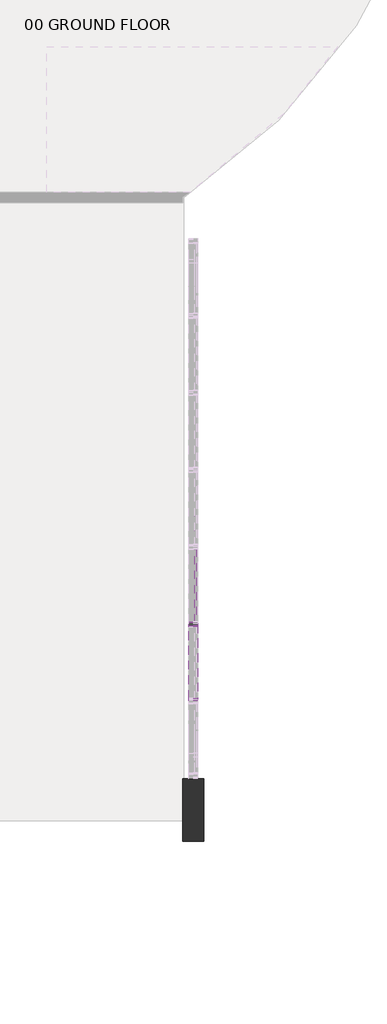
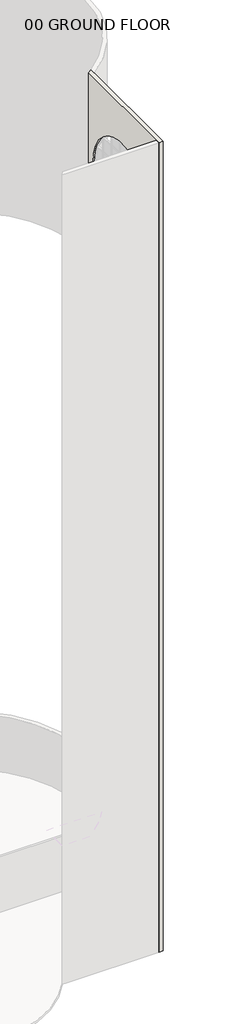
# One storey, part 17 of 33: 62 plates, 56 members, 1 wall.
"""IFC4 building model written with IfcOpenShell, lengths in millimetres."""

from ifc_helpers import new_model, si_unit, frame, origin, place, context, project, spatial, polyline, circle_curve, transform, mapped, element, save
from ifc_brep_helpers import plane_surface, revolved_surface, advanced_brep
from components import member_14f97ceb, member_d1490fb0, member_2b49869a, member_f6015b47, member_a643bc77, system_panel_glazed_f009bf0e, system_panel_glazed_0919b3b7, system_panel_glazed_74ab0a48

model = new_model("IFC4")

# Units and contexts
model_context = context("Model", 3, world=origin())
ifc_project = project(units=[si_unit("LENGTHUNIT", "METRE", prefix="MILLI")], contexts=[model_context])

# Site, building, storey
site = spatial("IfcSite", under=ifc_project)
building = spatial("IfcBuilding", under=site)
storey = spatial("IfcBuildingStorey", under=building, Name="00 GROUND FLOOR", Elevation=0.0)

# Members
placement = place(None, origin())
member_shape = member_14f97ceb(model_context)
element("IfcMember", 1, ObjectType="Rectangular Mullion : 2.5\" x 5\" rectangular", at=placement, inside=storey, context=model_context, shape_type="MappedRepresentation", body=[
    mapped(member_shape, transform((44184.4050515, 3061.1535716, 0.0), x_axis=(0.0, 0.0, -1.0), y_axis=(1.0, 0.0, 0.0), z_axis=(0.0, -1.0, 0.0))),
])
member_2_shape = member_d1490fb0(model_context)
element("IfcMember", 2, ObjectType="Rectangular Mullion : 2.5\" x 5\" rectangular", at=placement, inside=storey, context=model_context, shape_type="MappedRepresentation", body=[
    mapped(member_2_shape, transform((44184.4050515, 2997.6535716, 60960.0), x_axis=(0.0, 0.0, 1.0), y_axis=(1.0, 0.0, 0.0), z_axis=(0.0, 1.0, 0.0))),
])
element("IfcMember", 3, ObjectType="Rectangular Mullion : 2.5\" x 5\" rectangular", at=placement, inside=storey, context=model_context, shape_type="MappedRepresentation", body=[
    mapped(member_2_shape, transform((44184.4050515, 2997.6535716, 62179.2), x_axis=(0.0, 0.0, 1.0), y_axis=(1.0, 0.0, 0.0), z_axis=(0.0, 1.0, 0.0))),
])
member_3_shape = member_2b49869a(model_context)
element("IfcMember", 4, ObjectType="Rectangular Mullion : 2.5\" x 5\" rectangular", at=placement, inside=storey, context=model_context, shape_type="MappedRepresentation", body=[
    mapped(member_3_shape, transform((44184.4050515, 3029.4035716, 0.0), x_axis=(0.0, 1.0, 0.0), y_axis=(1.0, 0.0, 0.0), z_axis=(0.0, 0.0, -1.0))),
])
element("IfcMember", 5, ObjectType="Rectangular Mullion : 2.5\" x 5\" rectangular", at=placement, inside=storey, context=model_context, shape_type="MappedRepresentation", body=[
    mapped(member_3_shape, transform((44184.4050515, 3029.4035716, 1219.2), x_axis=(0.0, 1.0, 0.0), y_axis=(1.0, 0.0, 0.0), z_axis=(0.0, 0.0, -1.0))),
])
element("IfcMember", 6, ObjectType="Rectangular Mullion : 2.5\" x 5\" rectangular", at=placement, inside=storey, context=model_context, shape_type="MappedRepresentation", body=[
    mapped(member_3_shape, transform((44184.4050515, 3029.4035716, 2438.4), x_axis=(0.0, 1.0, 0.0), y_axis=(1.0, 0.0, 0.0), z_axis=(0.0, 0.0, -1.0))),
])
element("IfcMember", 7, ObjectType="Rectangular Mullion : 2.5\" x 5\" rectangular", at=placement, inside=storey, context=model_context, shape_type="MappedRepresentation", body=[
    mapped(member_3_shape, transform((44184.4050515, 3029.4035716, 3657.6), x_axis=(0.0, 1.0, 0.0), y_axis=(1.0, 0.0, 0.0), z_axis=(0.0, 0.0, -1.0))),
])
element("IfcMember", 8, ObjectType="Rectangular Mullion : 2.5\" x 5\" rectangular", at=placement, inside=storey, context=model_context, shape_type="MappedRepresentation", body=[
    mapped(member_3_shape, transform((44184.4050515, 3029.4035716, 4876.8), x_axis=(0.0, 1.0, 0.0), y_axis=(1.0, 0.0, 0.0), z_axis=(0.0, 0.0, -1.0))),
])
element("IfcMember", 9, ObjectType="Rectangular Mullion : 2.5\" x 5\" rectangular", at=placement, inside=storey, context=model_context, shape_type="MappedRepresentation", body=[
    mapped(member_3_shape, transform((44184.4050515, 3029.4035716, 6096.0), x_axis=(0.0, 1.0, 0.0), y_axis=(1.0, 0.0, 0.0), z_axis=(0.0, 0.0, -1.0))),
])
element("IfcMember", 10, ObjectType="Rectangular Mullion : 2.5\" x 5\" rectangular", at=placement, inside=storey, context=model_context, shape_type="MappedRepresentation", body=[
    mapped(member_3_shape, transform((44184.4050515, 3029.4035716, 7315.2), x_axis=(0.0, 1.0, 0.0), y_axis=(1.0, 0.0, 0.0), z_axis=(0.0, 0.0, -1.0))),
])
element("IfcMember", 11, ObjectType="Rectangular Mullion : 2.5\" x 5\" rectangular", at=placement, inside=storey, context=model_context, shape_type="MappedRepresentation", body=[
    mapped(member_3_shape, transform((44184.4050515, 3029.4035716, 8534.4), x_axis=(0.0, 1.0, 0.0), y_axis=(1.0, 0.0, 0.0), z_axis=(0.0, 0.0, -1.0))),
])
element("IfcMember", 12, ObjectType="Rectangular Mullion : 2.5\" x 5\" rectangular", at=placement, inside=storey, context=model_context, shape_type="MappedRepresentation", body=[
    mapped(member_3_shape, transform((44184.4050515, 3029.4035716, 9753.6), x_axis=(0.0, 1.0, 0.0), y_axis=(1.0, 0.0, 0.0), z_axis=(0.0, 0.0, -1.0))),
])
element("IfcMember", 13, ObjectType="Rectangular Mullion : 2.5\" x 5\" rectangular", at=placement, inside=storey, context=model_context, shape_type="MappedRepresentation", body=[
    mapped(member_3_shape, transform((44184.4050515, 3029.4035716, 10972.8), x_axis=(0.0, 1.0, 0.0), y_axis=(1.0, 0.0, 0.0), z_axis=(0.0, 0.0, -1.0))),
])
element("IfcMember", 14, ObjectType="Rectangular Mullion : 2.5\" x 5\" rectangular", at=placement, inside=storey, context=model_context, shape_type="MappedRepresentation", body=[
    mapped(member_3_shape, transform((44184.4050515, 3029.4035716, 12192.0), x_axis=(0.0, 1.0, 0.0), y_axis=(1.0, 0.0, 0.0), z_axis=(0.0, 0.0, -1.0))),
])
element("IfcMember", 15, ObjectType="Rectangular Mullion : 2.5\" x 5\" rectangular", at=placement, inside=storey, context=model_context, shape_type="MappedRepresentation", body=[
    mapped(member_3_shape, transform((44184.4050515, 3029.4035716, 13411.2), x_axis=(0.0, 1.0, 0.0), y_axis=(1.0, 0.0, 0.0), z_axis=(0.0, 0.0, -1.0))),
])
element("IfcMember", 16, ObjectType="Rectangular Mullion : 2.5\" x 5\" rectangular", at=placement, inside=storey, context=model_context, shape_type="MappedRepresentation", body=[
    mapped(member_3_shape, transform((44184.4050515, 3029.4035716, 14630.4), x_axis=(0.0, 1.0, 0.0), y_axis=(1.0, 0.0, 0.0), z_axis=(0.0, 0.0, -1.0))),
])
element("IfcMember", 17, ObjectType="Rectangular Mullion : 2.5\" x 5\" rectangular", at=placement, inside=storey, context=model_context, shape_type="MappedRepresentation", body=[
    mapped(member_3_shape, transform((44184.4050515, 3029.4035716, 15849.6), x_axis=(0.0, 1.0, 0.0), y_axis=(1.0, 0.0, 0.0), z_axis=(0.0, 0.0, -1.0))),
])
element("IfcMember", 18, ObjectType="Rectangular Mullion : 2.5\" x 5\" rectangular", at=placement, inside=storey, context=model_context, shape_type="MappedRepresentation", body=[
    mapped(member_3_shape, transform((44184.4050515, 3029.4035716, 17068.8), x_axis=(0.0, 1.0, 0.0), y_axis=(1.0, 0.0, 0.0), z_axis=(0.0, 0.0, -1.0))),
])
element("IfcMember", 19, ObjectType="Rectangular Mullion : 2.5\" x 5\" rectangular", at=placement, inside=storey, context=model_context, shape_type="MappedRepresentation", body=[
    mapped(member_3_shape, transform((44184.4050515, 3029.4035716, 18288.0), x_axis=(0.0, 1.0, 0.0), y_axis=(1.0, 0.0, 0.0), z_axis=(0.0, 0.0, -1.0))),
])
element("IfcMember", 20, ObjectType="Rectangular Mullion : 2.5\" x 5\" rectangular", at=placement, inside=storey, context=model_context, shape_type="MappedRepresentation", body=[
    mapped(member_3_shape, transform((44184.4050515, 3029.4035716, 19507.2), x_axis=(0.0, 1.0, 0.0), y_axis=(1.0, 0.0, 0.0), z_axis=(0.0, 0.0, -1.0))),
])
element("IfcMember", 21, ObjectType="Rectangular Mullion : 2.5\" x 5\" rectangular", at=placement, inside=storey, context=model_context, shape_type="MappedRepresentation", body=[
    mapped(member_3_shape, transform((44184.4050515, 3029.4035716, 20726.4), x_axis=(0.0, 1.0, 0.0), y_axis=(1.0, 0.0, 0.0), z_axis=(0.0, 0.0, -1.0))),
])
element("IfcMember", 22, ObjectType="Rectangular Mullion : 2.5\" x 5\" rectangular", at=placement, inside=storey, context=model_context, shape_type="MappedRepresentation", body=[
    mapped(member_3_shape, transform((44184.4050515, 3029.4035716, 21945.6), x_axis=(0.0, 1.0, 0.0), y_axis=(1.0, 0.0, 0.0), z_axis=(0.0, 0.0, -1.0))),
])
element("IfcMember", 23, ObjectType="Rectangular Mullion : 2.5\" x 5\" rectangular", at=placement, inside=storey, context=model_context, shape_type="MappedRepresentation", body=[
    mapped(member_3_shape, transform((44184.4050515, 3029.4035716, 23164.8), x_axis=(0.0, 1.0, 0.0), y_axis=(1.0, 0.0, 0.0), z_axis=(0.0, 0.0, -1.0))),
])
element("IfcMember", 24, ObjectType="Rectangular Mullion : 2.5\" x 5\" rectangular", at=placement, inside=storey, context=model_context, shape_type="MappedRepresentation", body=[
    mapped(member_3_shape, transform((44184.4050515, 3029.4035716, 24384.0), x_axis=(0.0, 1.0, 0.0), y_axis=(1.0, 0.0, 0.0), z_axis=(0.0, 0.0, -1.0))),
])
element("IfcMember", 25, ObjectType="Rectangular Mullion : 2.5\" x 5\" rectangular", at=placement, inside=storey, context=model_context, shape_type="MappedRepresentation", body=[
    mapped(member_3_shape, transform((44184.4050515, 3029.4035716, 25603.2), x_axis=(0.0, 1.0, 0.0), y_axis=(1.0, 0.0, 0.0), z_axis=(0.0, 0.0, -1.0))),
])
element("IfcMember", 26, ObjectType="Rectangular Mullion : 2.5\" x 5\" rectangular", at=placement, inside=storey, context=model_context, shape_type="MappedRepresentation", body=[
    mapped(member_3_shape, transform((44184.4050515, 3029.4035716, 26822.4), x_axis=(0.0, 1.0, 0.0), y_axis=(1.0, 0.0, 0.0), z_axis=(0.0, 0.0, -1.0))),
])
element("IfcMember", 27, ObjectType="Rectangular Mullion : 2.5\" x 5\" rectangular", at=placement, inside=storey, context=model_context, shape_type="MappedRepresentation", body=[
    mapped(member_3_shape, transform((44184.4050515, 3029.4035716, 28041.6), x_axis=(0.0, 1.0, 0.0), y_axis=(1.0, 0.0, 0.0), z_axis=(0.0, 0.0, -1.0))),
])
element("IfcMember", 28, ObjectType="Rectangular Mullion : 2.5\" x 5\" rectangular", at=placement, inside=storey, context=model_context, shape_type="MappedRepresentation", body=[
    mapped(member_3_shape, transform((44184.4050515, 3029.4035716, 29260.8), x_axis=(0.0, 1.0, 0.0), y_axis=(1.0, 0.0, 0.0), z_axis=(0.0, 0.0, -1.0))),
])
element("IfcMember", 29, ObjectType="Rectangular Mullion : 2.5\" x 5\" rectangular", at=placement, inside=storey, context=model_context, shape_type="MappedRepresentation", body=[
    mapped(member_3_shape, transform((44184.4050515, 3029.4035716, 30480.0), x_axis=(0.0, 1.0, 0.0), y_axis=(1.0, 0.0, 0.0), z_axis=(0.0, 0.0, -1.0))),
])
element("IfcMember", 30, ObjectType="Rectangular Mullion : 2.5\" x 5\" rectangular", at=placement, inside=storey, context=model_context, shape_type="MappedRepresentation", body=[
    mapped(member_3_shape, transform((44184.4050515, 3029.4035716, 31699.2), x_axis=(0.0, 1.0, 0.0), y_axis=(1.0, 0.0, 0.0), z_axis=(0.0, 0.0, -1.0))),
])
element("IfcMember", 31, ObjectType="Rectangular Mullion : 2.5\" x 5\" rectangular", at=placement, inside=storey, context=model_context, shape_type="MappedRepresentation", body=[
    mapped(member_3_shape, transform((44184.4050515, 3029.4035716, 32918.4), x_axis=(0.0, 1.0, 0.0), y_axis=(1.0, 0.0, 0.0), z_axis=(0.0, 0.0, -1.0))),
])
element("IfcMember", 32, ObjectType="Rectangular Mullion : 2.5\" x 5\" rectangular", at=placement, inside=storey, context=model_context, shape_type="MappedRepresentation", body=[
    mapped(member_3_shape, transform((44184.4050515, 3029.4035716, 34137.6), x_axis=(0.0, 1.0, 0.0), y_axis=(1.0, 0.0, 0.0), z_axis=(0.0, 0.0, -1.0))),
])
element("IfcMember", 33, ObjectType="Rectangular Mullion : 2.5\" x 5\" rectangular", at=placement, inside=storey, context=model_context, shape_type="MappedRepresentation", body=[
    mapped(member_3_shape, transform((44184.4050515, 3029.4035716, 35356.8), x_axis=(0.0, 1.0, 0.0), y_axis=(1.0, 0.0, 0.0), z_axis=(0.0, 0.0, -1.0))),
])
element("IfcMember", 34, ObjectType="Rectangular Mullion : 2.5\" x 5\" rectangular", at=placement, inside=storey, context=model_context, shape_type="MappedRepresentation", body=[
    mapped(member_3_shape, transform((44184.4050515, 3029.4035716, 36576.0), x_axis=(0.0, 1.0, 0.0), y_axis=(1.0, 0.0, 0.0), z_axis=(0.0, 0.0, -1.0))),
])
element("IfcMember", 35, ObjectType="Rectangular Mullion : 2.5\" x 5\" rectangular", at=placement, inside=storey, context=model_context, shape_type="MappedRepresentation", body=[
    mapped(member_3_shape, transform((44184.4050515, 3029.4035716, 37795.2), x_axis=(0.0, 1.0, 0.0), y_axis=(1.0, 0.0, 0.0), z_axis=(0.0, 0.0, -1.0))),
])
element("IfcMember", 36, ObjectType="Rectangular Mullion : 2.5\" x 5\" rectangular", at=placement, inside=storey, context=model_context, shape_type="MappedRepresentation", body=[
    mapped(member_3_shape, transform((44184.4050515, 3029.4035716, 39014.4), x_axis=(0.0, 1.0, 0.0), y_axis=(1.0, 0.0, 0.0), z_axis=(0.0, 0.0, -1.0))),
])
element("IfcMember", 37, ObjectType="Rectangular Mullion : 2.5\" x 5\" rectangular", at=placement, inside=storey, context=model_context, shape_type="MappedRepresentation", body=[
    mapped(member_3_shape, transform((44184.4050515, 3029.4035716, 40233.6), x_axis=(0.0, 1.0, 0.0), y_axis=(1.0, 0.0, 0.0), z_axis=(0.0, 0.0, -1.0))),
])
element("IfcMember", 38, ObjectType="Rectangular Mullion : 2.5\" x 5\" rectangular", at=placement, inside=storey, context=model_context, shape_type="MappedRepresentation", body=[
    mapped(member_3_shape, transform((44184.4050515, 3029.4035716, 41452.8), x_axis=(0.0, 1.0, 0.0), y_axis=(1.0, 0.0, 0.0), z_axis=(0.0, 0.0, -1.0))),
])
element("IfcMember", 39, ObjectType="Rectangular Mullion : 2.5\" x 5\" rectangular", at=placement, inside=storey, context=model_context, shape_type="MappedRepresentation", body=[
    mapped(member_3_shape, transform((44184.4050515, 3029.4035716, 42672.0), x_axis=(0.0, 1.0, 0.0), y_axis=(1.0, 0.0, 0.0), z_axis=(0.0, 0.0, -1.0))),
])
element("IfcMember", 40, ObjectType="Rectangular Mullion : 2.5\" x 5\" rectangular", at=placement, inside=storey, context=model_context, shape_type="MappedRepresentation", body=[
    mapped(member_3_shape, transform((44184.4050515, 3029.4035716, 43891.2), x_axis=(0.0, 1.0, 0.0), y_axis=(1.0, 0.0, 0.0), z_axis=(0.0, 0.0, -1.0))),
])
element("IfcMember", 41, ObjectType="Rectangular Mullion : 2.5\" x 5\" rectangular", at=placement, inside=storey, context=model_context, shape_type="MappedRepresentation", body=[
    mapped(member_3_shape, transform((44184.4050515, 3029.4035716, 45110.4), x_axis=(0.0, 1.0, 0.0), y_axis=(1.0, 0.0, 0.0), z_axis=(0.0, 0.0, -1.0))),
])
element("IfcMember", 42, ObjectType="Rectangular Mullion : 2.5\" x 5\" rectangular", at=placement, inside=storey, context=model_context, shape_type="MappedRepresentation", body=[
    mapped(member_3_shape, transform((44184.4050515, 3029.4035716, 46329.6), x_axis=(0.0, 1.0, 0.0), y_axis=(1.0, 0.0, 0.0), z_axis=(0.0, 0.0, -1.0))),
])
element("IfcMember", 43, ObjectType="Rectangular Mullion : 2.5\" x 5\" rectangular", at=placement, inside=storey, context=model_context, shape_type="MappedRepresentation", body=[
    mapped(member_3_shape, transform((44184.4050515, 3029.4035716, 47548.8), x_axis=(0.0, 1.0, 0.0), y_axis=(1.0, 0.0, 0.0), z_axis=(0.0, 0.0, -1.0))),
])
element("IfcMember", 44, ObjectType="Rectangular Mullion : 2.5\" x 5\" rectangular", at=placement, inside=storey, context=model_context, shape_type="MappedRepresentation", body=[
    mapped(member_3_shape, transform((44184.4050515, 3029.4035716, 48768.0), x_axis=(0.0, 1.0, 0.0), y_axis=(1.0, 0.0, 0.0), z_axis=(0.0, 0.0, -1.0))),
])
element("IfcMember", 45, ObjectType="Rectangular Mullion : 2.5\" x 5\" rectangular", at=placement, inside=storey, context=model_context, shape_type="MappedRepresentation", body=[
    mapped(member_3_shape, transform((44184.4050515, 3029.4035716, 49987.2), x_axis=(0.0, 1.0, 0.0), y_axis=(1.0, 0.0, 0.0), z_axis=(0.0, 0.0, -1.0))),
])
element("IfcMember", 46, ObjectType="Rectangular Mullion : 2.5\" x 5\" rectangular", at=placement, inside=storey, context=model_context, shape_type="MappedRepresentation", body=[
    mapped(member_3_shape, transform((44184.4050515, 3029.4035716, 51206.4), x_axis=(0.0, 1.0, 0.0), y_axis=(1.0, 0.0, 0.0), z_axis=(0.0, 0.0, -1.0))),
])
element("IfcMember", 47, ObjectType="Rectangular Mullion : 2.5\" x 5\" rectangular", at=placement, inside=storey, context=model_context, shape_type="MappedRepresentation", body=[
    mapped(member_3_shape, transform((44184.4050515, 3029.4035716, 52425.6), x_axis=(0.0, 1.0, 0.0), y_axis=(1.0, 0.0, 0.0), z_axis=(0.0, 0.0, -1.0))),
])
element("IfcMember", 48, ObjectType="Rectangular Mullion : 2.5\" x 5\" rectangular", at=placement, inside=storey, context=model_context, shape_type="MappedRepresentation", body=[
    mapped(member_3_shape, transform((44184.4050515, 3029.4035716, 53644.8), x_axis=(0.0, 1.0, 0.0), y_axis=(1.0, 0.0, 0.0), z_axis=(0.0, 0.0, -1.0))),
])
element("IfcMember", 49, ObjectType="Rectangular Mullion : 2.5\" x 5\" rectangular", at=placement, inside=storey, context=model_context, shape_type="MappedRepresentation", body=[
    mapped(member_3_shape, transform((44184.4050515, 3029.4035716, 54864.0), x_axis=(0.0, 1.0, 0.0), y_axis=(1.0, 0.0, 0.0), z_axis=(0.0, 0.0, -1.0))),
])
element("IfcMember", 50, ObjectType="Rectangular Mullion : 2.5\" x 5\" rectangular", at=placement, inside=storey, context=model_context, shape_type="MappedRepresentation", body=[
    mapped(member_3_shape, transform((44184.4050515, 3029.4035716, 56083.2), x_axis=(0.0, 1.0, 0.0), y_axis=(1.0, 0.0, 0.0), z_axis=(0.0, 0.0, -1.0))),
])
element("IfcMember", 51, ObjectType="Rectangular Mullion : 2.5\" x 5\" rectangular", at=placement, inside=storey, context=model_context, shape_type="MappedRepresentation", body=[
    mapped(member_3_shape, transform((44184.4050515, 3029.4035716, 57302.4), x_axis=(0.0, 1.0, 0.0), y_axis=(1.0, 0.0, 0.0), z_axis=(0.0, 0.0, -1.0))),
])
element("IfcMember", 52, ObjectType="Rectangular Mullion : 2.5\" x 5\" rectangular", at=placement, inside=storey, context=model_context, shape_type="MappedRepresentation", body=[
    mapped(member_3_shape, transform((44184.4050515, 3029.4035716, 58521.6), x_axis=(0.0, 1.0, 0.0), y_axis=(1.0, 0.0, 0.0), z_axis=(0.0, 0.0, -1.0))),
])
element("IfcMember", 53, ObjectType="Rectangular Mullion : 2.5\" x 5\" rectangular", at=placement, inside=storey, context=model_context, shape_type="MappedRepresentation", body=[
    mapped(member_3_shape, transform((44184.4050515, 3029.4035716, 59740.8), x_axis=(0.0, 1.0, 0.0), y_axis=(1.0, 0.0, 0.0), z_axis=(0.0, 0.0, -1.0))),
])
element("IfcMember", 54, ObjectType="Rectangular Mullion : 2.5\" x 5\" rectangular", at=placement, inside=storey, context=model_context, shape_type="MappedRepresentation", body=[
    mapped(member_3_shape, transform((44184.4050515, 3029.4035716, 60960.0), x_axis=(0.0, 1.0, 0.0), y_axis=(1.0, 0.0, 0.0), z_axis=(0.0, 0.0, -1.0))),
])
member_4_shape = member_f6015b47(model_context)
element("IfcMember", 55, ObjectType="Rectangular Mullion : 2.5\" x 5\" rectangular", at=placement, inside=storey, context=model_context, shape_type="MappedRepresentation", body=[
    mapped(member_4_shape, transform((44184.4050515, 3029.4035716, 63016.0597145), x_axis=(0.0, -0.42857142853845, 0.9035079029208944), y_axis=(1.0, 0.0, 0.0), z_axis=(0.0, 0.9035079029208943, 0.42857142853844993))),
])
member_5_shape = member_a643bc77(model_context)
element("IfcMember", 56, ObjectType="Rectangular Mullion : 2.5\" x 5\" rectangular", at=placement, inside=storey, context=model_context, shape_type="MappedRepresentation", body=[
    mapped(member_5_shape, transform((44184.4050515, 3029.4035716, 62179.2), x_axis=(0.0, 1.0, 0.0), y_axis=(1.0, 0.0, 0.0), z_axis=(0.0, 0.0, -1.0))),
])

# Plates
system_panel_glazed_shape = system_panel_glazed_f009bf0e(model_context)
element("IfcPlate", 57, ObjectType="System Panel : Glazed", at=placement, inside=storey, context=model_context, shape_type="MappedRepresentation", body=[
    mapped(system_panel_glazed_shape, transform((44184.4050515, 3595.4607144, 63.5), x_axis=(0.0, 1.0, 0.0), y_axis=(-1.0, 0.0, 0.0), z_axis=(0.0, 0.0, 1.0))),
])
element("IfcPlate", 58, ObjectType="System Panel : Glazed", at=placement, inside=storey, context=model_context, shape_type="MappedRepresentation", body=[
    mapped(system_panel_glazed_shape, transform((44184.4050515, 4727.575, 63.5), x_axis=(0.0, 1.0, 0.0), y_axis=(-1.0, 0.0, 0.0), z_axis=(0.0, 0.0, 1.0))),
])
system_panel_glazed_2_shape = system_panel_glazed_0919b3b7(model_context)
element("IfcPlate", 59, ObjectType="System Panel : Glazed", at=placement, inside=storey, context=model_context, shape_type="MappedRepresentation", body=[
    mapped(system_panel_glazed_2_shape, transform((44184.4050515, 3595.4607144, 1250.95), x_axis=(0.0, 1.0, 0.0), y_axis=(-1.0, 0.0, 0.0), z_axis=(0.0, 0.0, 1.0))),
])
element("IfcPlate", 60, ObjectType="System Panel : Glazed", at=placement, inside=storey, context=model_context, shape_type="MappedRepresentation", body=[
    mapped(system_panel_glazed_2_shape, transform((44184.4050515, 4727.575, 1250.95), x_axis=(0.0, 1.0, 0.0), y_axis=(-1.0, 0.0, 0.0), z_axis=(0.0, 0.0, 1.0))),
])
element("IfcPlate", 61, ObjectType="System Panel : Glazed", at=placement, inside=storey, context=model_context, shape_type="MappedRepresentation", body=[
    mapped(system_panel_glazed_2_shape, transform((44184.4050515, 3595.4607144, 2470.15), x_axis=(0.0, 1.0, 0.0), y_axis=(-1.0, 0.0, 0.0), z_axis=(0.0, 0.0, 1.0))),
])
element("IfcPlate", 62, ObjectType="System Panel : Glazed", at=placement, inside=storey, context=model_context, shape_type="MappedRepresentation", body=[
    mapped(system_panel_glazed_2_shape, transform((44184.4050515, 4727.575, 2470.15), x_axis=(0.0, 1.0, 0.0), y_axis=(-1.0, 0.0, 0.0), z_axis=(0.0, 0.0, 1.0))),
])
element("IfcPlate", 63, ObjectType="System Panel : Glazed", at=placement, inside=storey, context=model_context, shape_type="MappedRepresentation", body=[
    mapped(system_panel_glazed_2_shape, transform((44184.4050515, 3595.4607144, 3689.35), x_axis=(0.0, 1.0, 0.0), y_axis=(-1.0, 0.0, 0.0), z_axis=(0.0, 0.0, 1.0))),
])
element("IfcPlate", 64, ObjectType="System Panel : Glazed", at=placement, inside=storey, context=model_context, shape_type="MappedRepresentation", body=[
    mapped(system_panel_glazed_2_shape, transform((44184.4050515, 4727.575, 3689.35), x_axis=(0.0, 1.0, 0.0), y_axis=(-1.0, 0.0, 0.0), z_axis=(0.0, 0.0, 1.0))),
])
element("IfcPlate", 65, ObjectType="System Panel : Glazed", at=placement, inside=storey, context=model_context, shape_type="MappedRepresentation", body=[
    mapped(system_panel_glazed_2_shape, transform((44184.4050515, 3595.4607144, 4908.55), x_axis=(0.0, 1.0, 0.0), y_axis=(-1.0, 0.0, 0.0), z_axis=(0.0, 0.0, 1.0))),
])
element("IfcPlate", 66, ObjectType="System Panel : Glazed", at=placement, inside=storey, context=model_context, shape_type="MappedRepresentation", body=[
    mapped(system_panel_glazed_2_shape, transform((44184.4050515, 4727.575, 4908.55), x_axis=(0.0, 1.0, 0.0), y_axis=(-1.0, 0.0, 0.0), z_axis=(0.0, 0.0, 1.0))),
])
element("IfcPlate", 67, ObjectType="System Panel : Glazed", at=placement, inside=storey, context=model_context, shape_type="MappedRepresentation", body=[
    mapped(system_panel_glazed_2_shape, transform((44184.4050515, 3595.4607144, 6127.75), x_axis=(0.0, 1.0, 0.0), y_axis=(-1.0, 0.0, 0.0), z_axis=(0.0, 0.0, 1.0))),
])
element("IfcPlate", 68, ObjectType="System Panel : Glazed", at=placement, inside=storey, context=model_context, shape_type="MappedRepresentation", body=[
    mapped(system_panel_glazed_2_shape, transform((44184.4050515, 4727.575, 6127.75), x_axis=(0.0, 1.0, 0.0), y_axis=(-1.0, 0.0, 0.0), z_axis=(0.0, 0.0, 1.0))),
])
element("IfcPlate", 69, ObjectType="System Panel : Glazed", at=placement, inside=storey, context=model_context, shape_type="MappedRepresentation", body=[
    mapped(system_panel_glazed_2_shape, transform((44184.4050515, 3595.4607144, 7346.95), x_axis=(0.0, 1.0, 0.0), y_axis=(-1.0, 0.0, 0.0), z_axis=(0.0, 0.0, 1.0))),
])
element("IfcPlate", 70, ObjectType="System Panel : Glazed", at=placement, inside=storey, context=model_context, shape_type="MappedRepresentation", body=[
    mapped(system_panel_glazed_2_shape, transform((44184.4050515, 4727.575, 7346.95), x_axis=(0.0, 1.0, 0.0), y_axis=(-1.0, 0.0, 0.0), z_axis=(0.0, 0.0, 1.0))),
])
element("IfcPlate", 71, ObjectType="System Panel : Glazed", at=placement, inside=storey, context=model_context, shape_type="MappedRepresentation", body=[
    mapped(system_panel_glazed_2_shape, transform((44184.4050515, 3595.4607144, 8566.15), x_axis=(0.0, 1.0, 0.0), y_axis=(-1.0, 0.0, 0.0), z_axis=(0.0, 0.0, 1.0))),
])
element("IfcPlate", 72, ObjectType="System Panel : Glazed", at=placement, inside=storey, context=model_context, shape_type="MappedRepresentation", body=[
    mapped(system_panel_glazed_2_shape, transform((44184.4050515, 4727.575, 8566.15), x_axis=(0.0, 1.0, 0.0), y_axis=(-1.0, 0.0, 0.0), z_axis=(0.0, 0.0, 1.0))),
])
element("IfcPlate", 73, ObjectType="System Panel : Glazed", at=placement, inside=storey, context=model_context, shape_type="MappedRepresentation", body=[
    mapped(system_panel_glazed_2_shape, transform((44184.4050515, 3595.4607144, 9785.35), x_axis=(0.0, 1.0, 0.0), y_axis=(-1.0, 0.0, 0.0), z_axis=(0.0, 0.0, 1.0))),
])
element("IfcPlate", 74, ObjectType="System Panel : Glazed", at=placement, inside=storey, context=model_context, shape_type="MappedRepresentation", body=[
    mapped(system_panel_glazed_2_shape, transform((44184.4050515, 4727.575, 9785.35), x_axis=(0.0, 1.0, 0.0), y_axis=(-1.0, 0.0, 0.0), z_axis=(0.0, 0.0, 1.0))),
])
element("IfcPlate", 75, ObjectType="System Panel : Glazed", at=placement, inside=storey, context=model_context, shape_type="MappedRepresentation", body=[
    mapped(system_panel_glazed_2_shape, transform((44184.4050515, 3595.4607144, 11004.55), x_axis=(0.0, 1.0, 0.0), y_axis=(-1.0, 0.0, 0.0), z_axis=(0.0, 0.0, 1.0))),
])
element("IfcPlate", 76, ObjectType="System Panel : Glazed", at=placement, inside=storey, context=model_context, shape_type="MappedRepresentation", body=[
    mapped(system_panel_glazed_2_shape, transform((44184.4050515, 4727.575, 11004.55), x_axis=(0.0, 1.0, 0.0), y_axis=(-1.0, 0.0, 0.0), z_axis=(0.0, 0.0, 1.0))),
])
element("IfcPlate", 77, ObjectType="System Panel : Glazed", at=placement, inside=storey, context=model_context, shape_type="MappedRepresentation", body=[
    mapped(system_panel_glazed_2_shape, transform((44184.4050515, 3595.4607144, 12223.75), x_axis=(0.0, 1.0, 0.0), y_axis=(-1.0, 0.0, 0.0), z_axis=(0.0, 0.0, 1.0))),
])
element("IfcPlate", 78, ObjectType="System Panel : Glazed", at=placement, inside=storey, context=model_context, shape_type="MappedRepresentation", body=[
    mapped(system_panel_glazed_2_shape, transform((44184.4050515, 3595.4607144, 13442.95), x_axis=(0.0, 1.0, 0.0), y_axis=(-1.0, 0.0, 0.0), z_axis=(0.0, 0.0, 1.0))),
])
element("IfcPlate", 79, ObjectType="System Panel : Glazed", at=placement, inside=storey, context=model_context, shape_type="MappedRepresentation", body=[
    mapped(system_panel_glazed_2_shape, transform((44184.4050515, 3595.4607144, 14662.15), x_axis=(0.0, 1.0, 0.0), y_axis=(-1.0, 0.0, 0.0), z_axis=(0.0, 0.0, 1.0))),
])
element("IfcPlate", 80, ObjectType="System Panel : Glazed", at=placement, inside=storey, context=model_context, shape_type="MappedRepresentation", body=[
    mapped(system_panel_glazed_2_shape, transform((44184.4050515, 3595.4607144, 15881.35), x_axis=(0.0, 1.0, 0.0), y_axis=(-1.0, 0.0, 0.0), z_axis=(0.0, 0.0, 1.0))),
])
element("IfcPlate", 81, ObjectType="System Panel : Glazed", at=placement, inside=storey, context=model_context, shape_type="MappedRepresentation", body=[
    mapped(system_panel_glazed_2_shape, transform((44184.4050515, 3595.4607144, 17100.55), x_axis=(0.0, 1.0, 0.0), y_axis=(-1.0, 0.0, 0.0), z_axis=(0.0, 0.0, 1.0))),
])
element("IfcPlate", 82, ObjectType="System Panel : Glazed", at=placement, inside=storey, context=model_context, shape_type="MappedRepresentation", body=[
    mapped(system_panel_glazed_2_shape, transform((44184.4050515, 3595.4607144, 18319.75), x_axis=(0.0, 1.0, 0.0), y_axis=(-1.0, 0.0, 0.0), z_axis=(0.0, 0.0, 1.0))),
])
element("IfcPlate", 83, ObjectType="System Panel : Glazed", at=placement, inside=storey, context=model_context, shape_type="MappedRepresentation", body=[
    mapped(system_panel_glazed_2_shape, transform((44184.4050515, 3595.4607144, 19538.95), x_axis=(0.0, 1.0, 0.0), y_axis=(-1.0, 0.0, 0.0), z_axis=(0.0, 0.0, 1.0))),
])
element("IfcPlate", 84, ObjectType="System Panel : Glazed", at=placement, inside=storey, context=model_context, shape_type="MappedRepresentation", body=[
    mapped(system_panel_glazed_2_shape, transform((44184.4050515, 3595.4607144, 20758.15), x_axis=(0.0, 1.0, 0.0), y_axis=(-1.0, 0.0, 0.0), z_axis=(0.0, 0.0, 1.0))),
])
element("IfcPlate", 85, ObjectType="System Panel : Glazed", at=placement, inside=storey, context=model_context, shape_type="MappedRepresentation", body=[
    mapped(system_panel_glazed_2_shape, transform((44184.4050515, 3595.4607144, 21977.35), x_axis=(0.0, 1.0, 0.0), y_axis=(-1.0, 0.0, 0.0), z_axis=(0.0, 0.0, 1.0))),
])
element("IfcPlate", 86, ObjectType="System Panel : Glazed", at=placement, inside=storey, context=model_context, shape_type="MappedRepresentation", body=[
    mapped(system_panel_glazed_2_shape, transform((44184.4050515, 3595.4607144, 23196.55), x_axis=(0.0, 1.0, 0.0), y_axis=(-1.0, 0.0, 0.0), z_axis=(0.0, 0.0, 1.0))),
])
element("IfcPlate", 87, ObjectType="System Panel : Glazed", at=placement, inside=storey, context=model_context, shape_type="MappedRepresentation", body=[
    mapped(system_panel_glazed_2_shape, transform((44184.4050515, 3595.4607144, 24415.75), x_axis=(0.0, 1.0, 0.0), y_axis=(-1.0, 0.0, 0.0), z_axis=(0.0, 0.0, 1.0))),
])
element("IfcPlate", 88, ObjectType="System Panel : Glazed", at=placement, inside=storey, context=model_context, shape_type="MappedRepresentation", body=[
    mapped(system_panel_glazed_2_shape, transform((44184.4050515, 3595.4607144, 25634.95), x_axis=(0.0, 1.0, 0.0), y_axis=(-1.0, 0.0, 0.0), z_axis=(0.0, 0.0, 1.0))),
])
element("IfcPlate", 89, ObjectType="System Panel : Glazed", at=placement, inside=storey, context=model_context, shape_type="MappedRepresentation", body=[
    mapped(system_panel_glazed_2_shape, transform((44184.4050515, 3595.4607144, 26854.15), x_axis=(0.0, 1.0, 0.0), y_axis=(-1.0, 0.0, 0.0), z_axis=(0.0, 0.0, 1.0))),
])
element("IfcPlate", 90, ObjectType="System Panel : Glazed", at=placement, inside=storey, context=model_context, shape_type="MappedRepresentation", body=[
    mapped(system_panel_glazed_2_shape, transform((44184.4050515, 3595.4607144, 28073.35), x_axis=(0.0, 1.0, 0.0), y_axis=(-1.0, 0.0, 0.0), z_axis=(0.0, 0.0, 1.0))),
])
element("IfcPlate", 91, ObjectType="System Panel : Glazed", at=placement, inside=storey, context=model_context, shape_type="MappedRepresentation", body=[
    mapped(system_panel_glazed_2_shape, transform((44184.4050515, 3595.4607144, 29292.55), x_axis=(0.0, 1.0, 0.0), y_axis=(-1.0, 0.0, 0.0), z_axis=(0.0, 0.0, 1.0))),
])
element("IfcPlate", 92, ObjectType="System Panel : Glazed", at=placement, inside=storey, context=model_context, shape_type="MappedRepresentation", body=[
    mapped(system_panel_glazed_2_shape, transform((44184.4050515, 3595.4607144, 30511.75), x_axis=(0.0, 1.0, 0.0), y_axis=(-1.0, 0.0, 0.0), z_axis=(0.0, 0.0, 1.0))),
])
element("IfcPlate", 93, ObjectType="System Panel : Glazed", at=placement, inside=storey, context=model_context, shape_type="MappedRepresentation", body=[
    mapped(system_panel_glazed_2_shape, transform((44184.4050515, 3595.4607144, 31730.95), x_axis=(0.0, 1.0, 0.0), y_axis=(-1.0, 0.0, 0.0), z_axis=(0.0, 0.0, 1.0))),
])
element("IfcPlate", 94, ObjectType="System Panel : Glazed", at=placement, inside=storey, context=model_context, shape_type="MappedRepresentation", body=[
    mapped(system_panel_glazed_2_shape, transform((44184.4050515, 3595.4607144, 32950.15), x_axis=(0.0, 1.0, 0.0), y_axis=(-1.0, 0.0, 0.0), z_axis=(0.0, 0.0, 1.0))),
])
element("IfcPlate", 95, ObjectType="System Panel : Glazed", at=placement, inside=storey, context=model_context, shape_type="MappedRepresentation", body=[
    mapped(system_panel_glazed_2_shape, transform((44184.4050515, 3595.4607144, 34169.35), x_axis=(0.0, 1.0, 0.0), y_axis=(-1.0, 0.0, 0.0), z_axis=(0.0, 0.0, 1.0))),
])
element("IfcPlate", 96, ObjectType="System Panel : Glazed", at=placement, inside=storey, context=model_context, shape_type="MappedRepresentation", body=[
    mapped(system_panel_glazed_2_shape, transform((44184.4050515, 3595.4607144, 35388.55), x_axis=(0.0, 1.0, 0.0), y_axis=(-1.0, 0.0, 0.0), z_axis=(0.0, 0.0, 1.0))),
])
element("IfcPlate", 97, ObjectType="System Panel : Glazed", at=placement, inside=storey, context=model_context, shape_type="MappedRepresentation", body=[
    mapped(system_panel_glazed_2_shape, transform((44184.4050515, 3595.4607144, 36607.75), x_axis=(0.0, 1.0, 0.0), y_axis=(-1.0, 0.0, 0.0), z_axis=(0.0, 0.0, 1.0))),
])
element("IfcPlate", 98, ObjectType="System Panel : Glazed", at=placement, inside=storey, context=model_context, shape_type="MappedRepresentation", body=[
    mapped(system_panel_glazed_2_shape, transform((44184.4050515, 3595.4607144, 37826.95), x_axis=(0.0, 1.0, 0.0), y_axis=(-1.0, 0.0, 0.0), z_axis=(0.0, 0.0, 1.0))),
])
element("IfcPlate", 99, ObjectType="System Panel : Glazed", at=placement, inside=storey, context=model_context, shape_type="MappedRepresentation", body=[
    mapped(system_panel_glazed_2_shape, transform((44184.4050515, 3595.4607144, 39046.15), x_axis=(0.0, 1.0, 0.0), y_axis=(-1.0, 0.0, 0.0), z_axis=(0.0, 0.0, 1.0))),
])
element("IfcPlate", 100, ObjectType="System Panel : Glazed", at=placement, inside=storey, context=model_context, shape_type="MappedRepresentation", body=[
    mapped(system_panel_glazed_2_shape, transform((44184.4050515, 3595.4607144, 40265.35), x_axis=(0.0, 1.0, 0.0), y_axis=(-1.0, 0.0, 0.0), z_axis=(0.0, 0.0, 1.0))),
])
element("IfcPlate", 101, ObjectType="System Panel : Glazed", at=placement, inside=storey, context=model_context, shape_type="MappedRepresentation", body=[
    mapped(system_panel_glazed_2_shape, transform((44184.4050515, 3595.4607144, 41484.55), x_axis=(0.0, 1.0, 0.0), y_axis=(-1.0, 0.0, 0.0), z_axis=(0.0, 0.0, 1.0))),
])
element("IfcPlate", 102, ObjectType="System Panel : Glazed", at=placement, inside=storey, context=model_context, shape_type="MappedRepresentation", body=[
    mapped(system_panel_glazed_2_shape, transform((44184.4050515, 3595.4607144, 42703.75), x_axis=(0.0, 1.0, 0.0), y_axis=(-1.0, 0.0, 0.0), z_axis=(0.0, 0.0, 1.0))),
])
element("IfcPlate", 103, ObjectType="System Panel : Glazed", at=placement, inside=storey, context=model_context, shape_type="MappedRepresentation", body=[
    mapped(system_panel_glazed_2_shape, transform((44184.4050515, 3595.4607144, 43922.95), x_axis=(0.0, 1.0, 0.0), y_axis=(-1.0, 0.0, 0.0), z_axis=(0.0, 0.0, 1.0))),
])
element("IfcPlate", 104, ObjectType="System Panel : Glazed", at=placement, inside=storey, context=model_context, shape_type="MappedRepresentation", body=[
    mapped(system_panel_glazed_2_shape, transform((44184.4050515, 3595.4607144, 45142.15), x_axis=(0.0, 1.0, 0.0), y_axis=(-1.0, 0.0, 0.0), z_axis=(0.0, 0.0, 1.0))),
])
element("IfcPlate", 105, ObjectType="System Panel : Glazed", at=placement, inside=storey, context=model_context, shape_type="MappedRepresentation", body=[
    mapped(system_panel_glazed_2_shape, transform((44184.4050515, 3595.4607144, 46361.35), x_axis=(0.0, 1.0, 0.0), y_axis=(-1.0, 0.0, 0.0), z_axis=(0.0, 0.0, 1.0))),
])
element("IfcPlate", 106, ObjectType="System Panel : Glazed", at=placement, inside=storey, context=model_context, shape_type="MappedRepresentation", body=[
    mapped(system_panel_glazed_2_shape, transform((44184.4050515, 3595.4607144, 47580.55), x_axis=(0.0, 1.0, 0.0), y_axis=(-1.0, 0.0, 0.0), z_axis=(0.0, 0.0, 1.0))),
])
element("IfcPlate", 107, ObjectType="System Panel : Glazed", at=placement, inside=storey, context=model_context, shape_type="MappedRepresentation", body=[
    mapped(system_panel_glazed_2_shape, transform((44184.4050515, 3595.4607144, 48799.75), x_axis=(0.0, 1.0, 0.0), y_axis=(-1.0, 0.0, 0.0), z_axis=(0.0, 0.0, 1.0))),
])
element("IfcPlate", 108, ObjectType="System Panel : Glazed", at=placement, inside=storey, context=model_context, shape_type="MappedRepresentation", body=[
    mapped(system_panel_glazed_2_shape, transform((44184.4050515, 3595.4607144, 50018.95), x_axis=(0.0, 1.0, 0.0), y_axis=(-1.0, 0.0, 0.0), z_axis=(0.0, 0.0, 1.0))),
])
element("IfcPlate", 109, ObjectType="System Panel : Glazed", at=placement, inside=storey, context=model_context, shape_type="MappedRepresentation", body=[
    mapped(system_panel_glazed_2_shape, transform((44184.4050515, 3595.4607144, 51238.15), x_axis=(0.0, 1.0, 0.0), y_axis=(-1.0, 0.0, 0.0), z_axis=(0.0, 0.0, 1.0))),
])
element("IfcPlate", 110, ObjectType="System Panel : Glazed", at=placement, inside=storey, context=model_context, shape_type="MappedRepresentation", body=[
    mapped(system_panel_glazed_2_shape, transform((44184.4050515, 3595.4607144, 52457.35), x_axis=(0.0, 1.0, 0.0), y_axis=(-1.0, 0.0, 0.0), z_axis=(0.0, 0.0, 1.0))),
])
element("IfcPlate", 111, ObjectType="System Panel : Glazed", at=placement, inside=storey, context=model_context, shape_type="MappedRepresentation", body=[
    mapped(system_panel_glazed_2_shape, transform((44184.4050515, 3595.4607144, 53676.55), x_axis=(0.0, 1.0, 0.0), y_axis=(-1.0, 0.0, 0.0), z_axis=(0.0, 0.0, 1.0))),
])
element("IfcPlate", 112, ObjectType="System Panel : Glazed", at=placement, inside=storey, context=model_context, shape_type="MappedRepresentation", body=[
    mapped(system_panel_glazed_2_shape, transform((44184.4050515, 3595.4607144, 54895.75), x_axis=(0.0, 1.0, 0.0), y_axis=(-1.0, 0.0, 0.0), z_axis=(0.0, 0.0, 1.0))),
])
element("IfcPlate", 113, ObjectType="System Panel : Glazed", at=placement, inside=storey, context=model_context, shape_type="MappedRepresentation", body=[
    mapped(system_panel_glazed_2_shape, transform((44184.4050515, 3595.4607144, 56114.95), x_axis=(0.0, 1.0, 0.0), y_axis=(-1.0, 0.0, 0.0), z_axis=(0.0, 0.0, 1.0))),
])
element("IfcPlate", 114, ObjectType="System Panel : Glazed", at=placement, inside=storey, context=model_context, shape_type="MappedRepresentation", body=[
    mapped(system_panel_glazed_2_shape, transform((44184.4050515, 3595.4607144, 57334.15), x_axis=(0.0, 1.0, 0.0), y_axis=(-1.0, 0.0, 0.0), z_axis=(0.0, 0.0, 1.0))),
])
element("IfcPlate", 115, ObjectType="System Panel : Glazed", at=placement, inside=storey, context=model_context, shape_type="MappedRepresentation", body=[
    mapped(system_panel_glazed_2_shape, transform((44184.4050515, 3595.4607144, 58553.35), x_axis=(0.0, 1.0, 0.0), y_axis=(-1.0, 0.0, 0.0), z_axis=(0.0, 0.0, 1.0))),
])
element("IfcPlate", 116, ObjectType="System Panel : Glazed", at=placement, inside=storey, context=model_context, shape_type="MappedRepresentation", body=[
    mapped(system_panel_glazed_2_shape, transform((44184.4050515, 3595.4607144, 59772.55), x_axis=(0.0, 1.0, 0.0), y_axis=(-1.0, 0.0, 0.0), z_axis=(0.0, 0.0, 1.0))),
])
element("IfcPlate", 117, ObjectType="System Panel : Glazed", at=placement, inside=storey, context=model_context, shape_type="MappedRepresentation", body=[
    mapped(system_panel_glazed_2_shape, transform((44184.4050515, 3595.4607144, 60991.75), x_axis=(0.0, 1.0, 0.0), y_axis=(-1.0, 0.0, 0.0), z_axis=(0.0, 0.0, 1.0))),
])
system_panel_glazed_3_shape = system_panel_glazed_74ab0a48(model_context)
element("IfcPlate", 118, ObjectType="System Panel : Glazed", at=placement, inside=storey, context=model_context, shape_type="MappedRepresentation", body=[
    mapped(system_panel_glazed_3_shape, transform((44184.4050515, 3595.4607144, 62210.95), x_axis=(0.0, 1.0, 0.0), y_axis=(-1.0, 0.0, 0.0), z_axis=(0.0, 0.0, 1.0))),
])

# Wall
element("IfcWall", 119, ObjectType="Exterior - MAIN EIFS WITH LGMF", at=placement, inside=storey, context=model_context, shape_type="AdvancedBrep", body=[
    advanced_brep(
    [(44028.8300515, -155.575, 66446.4), (44028.8300515, 155.575, 66446.4), (44028.8300515, 9299.575, 66446.4), (44028.8300515, 9299.575, 64008.0), (44028.8300515, 9299.575, 59436.0), (44028.8300515, 9299.575, 54864.0), (44028.8300515, 9299.575, 50292.0), (44028.8300515, 9299.575, 45720.0), (44028.8300515, 9299.575, 41148.0), (44028.8300515, 9299.575, 36576.0), (44028.8300515, 9299.575, 32004.0), (44028.8300515, 9299.575, 27432.0), (44028.8300515, 9299.575, 22860.0), (44028.8300515, 9299.575, 18288.0), (44028.8300515, 9299.575, 13716.0), (44028.8300515, 9299.575, 9144.0), (44028.8300515, 9299.575, 4572.0), (44028.8300515, 9299.575, 0.0), (44028.8300515, 9221.7875, 0.0), (44028.8300515, 8689.975, 0.0), (44028.8300515, 8689.975, 59436.0), (44028.8300515, 765.175, 59436.0), (44028.8300515, 765.175, 0.0), (44028.8300515, 155.575, 0.0), (44028.8300515, -155.575, 0.0), (44339.9800515, 9515.3770142, 66446.4), (44339.9800515, 9134.3792199, 66446.4), (44339.9800515, -155.575, 66446.4), (44339.9800515, -155.575, 0.0), (44339.9800515, 765.175, 0.0), (44339.9800515, 765.175, 59436.0), (44339.9800515, 8689.975, 59436.0), (44339.9800515, 8689.975, 0.0), (44339.9800515, 9134.3792199, 0.0), (44339.9800515, 9515.3770142, 0.0), (44144.1870009, 9377.3643974, 0.0)],
    [
        (0, 1),
        (1, 2),
        (2, 3),
        (3, 4),
        (4, 5),
        (5, 6),
        (6, 7),
        (7, 8),
        (8, 9),
        (9, 10),
        (10, 11),
        (11, 12),
        (12, 13),
        (13, 14),
        (14, 15),
        (15, 16),
        (16, 17),
        (17, 18),
        (18, 19),
        (19, 20),
        (20, 21, circle_curve(frame((44028.8300515, 4727.575, 59436.0), z_axis=(1.0, 0.0, 0.0), x_axis=(0.0, -1.0, 0.0)), 3962.4)),
        (21, 22),
        (22, 23),
        (23, 24),
        (24, 0),
        (25, 26),
        (26, 27),
        (27, 28),
        (28, 29),
        (29, 30),
        (30, 31, circle_curve(frame((44339.9800515, 4727.575, 59436.0), z_axis=(-1.0, 0.0, 0.0), x_axis=(0.0, -1.0, 0.0)), 3962.4)),
        (31, 32),
        (32, 33),
        (33, 34),
        (34, 25),
        (28, 24),
        (22, 29),
        (17, 35, circle_curve(frame((38974.293871, 16919.575, 0.0), z_axis=(0.0, 0.0, 1.0), x_axis=(1.0, 0.0, 0.0)), 9144.0)),
        (35, 34, circle_curve(frame((38974.293871, 16919.575, 0.0), z_axis=(0.0, 0.0, 1.0), x_axis=(1.0, 0.0, 0.0)), 9143.9999863)),
        (32, 19),
        (0, 27),
        (25, 2, circle_curve(frame((38974.293871, 16919.575, 66446.4), z_axis=(0.0, 0.0, -1.0), x_axis=(1.0, 0.0, 0.0)), 9144.0)),
        (21, 30),
        (20, 31),
    ],
    [
        plane_surface(frame((44028.8300515, 9299.575, 0.0), z_axis=(-1.0, 0.0, 0.0), x_axis=(0.0, -1.0, 0.0))),
        plane_surface(frame((44339.9800515, 9299.575, 0.0), z_axis=(1.0, 0.0, 0.0), x_axis=(0.0, 1.0, 0.0))),
        plane_surface(frame((44028.8300515, 9216.5342584, 0.0), z_axis=(0.0, 0.0, -1.0), x_axis=(1.0, 0.0, 0.0))),
        plane_surface(frame((44028.8300515, 0.0, 66446.4), z_axis=(0.0, 0.0, 1.0), x_axis=(1.0, 0.0, 0.0))),
        plane_surface(frame((44028.8300515, -155.575, 0.0), z_axis=(0.0, -1.0, 0.0), x_axis=(1.0, 0.0, 0.0))),
        revolved_surface(polyline([(48118.293871, 16919.575, 0.0), (48118.293871, 16919.575, 66446.4)]), (38974.293871, 16919.575, 0.0), (0.0, 0.0, -1.0)),
        plane_surface(frame((43876.4300515, 765.175, 0.0), z_axis=(0.0, 1.0, 0.0), x_axis=(1.0, 0.0, 0.0))),
        revolved_surface(polyline([(44028.8300515, 765.1749999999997, 59436.0), (44339.9800515, 765.1749999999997, 59436.0)]), (44171.7050515, 4727.575, 59436.0), (-1.0, 0.0, 0.0)),
        plane_surface(frame((43876.4300515, 8689.975, 59436.0), z_axis=(0.0, -1.0, 0.0), x_axis=(1.0, 0.0, 0.0))),
    ],
    [
        (0, [[1, 2, 3, 4, 5, 6, 7, 8, 9, 10, 11, 12, 13, 14, 15, 16, 17, 18, 19, 20, 21, 22, 23, 24, 25]]),
        (1, [[26, 27, 28, 29, 30, 31, 32, 33, 34, 35]]),
        (2, [[36, -24, -23, 37, -29]]),
        (2, [[38, 39, -34, -33, 40, -19, -18]]),
        (3, [[-2, -1, 41, -27, -26, 42]]),
        (4, [[-25, -36, -28, -41]]),
        (5, [[-39, -38, -17, -16, -15, -14, -13, -12, -11, -10, -9, -8, -7, -6, -5, -4, -3, -42, -35]]),
        (6, [[43, -30, -37, -22]]),
        (7, [[-43, -21, 44, -31]]),
        (8, [[-44, -20, -40, -32]]),
    ],
),
])

save(model, "model.ifc")
